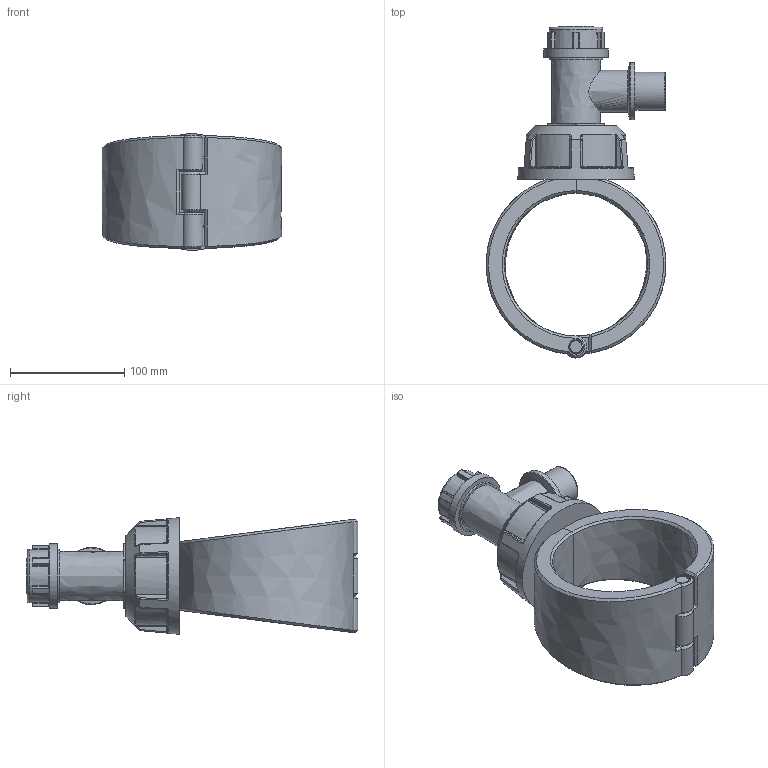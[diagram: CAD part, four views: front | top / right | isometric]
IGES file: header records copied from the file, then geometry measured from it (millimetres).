
Global section: file name: 1631R0125010; native system: Autodesk Inventor 2019; preprocessor: unknown; author: comp2; date: 20220203.120641; units: millimetre
Bounding box: 156.99 x 290 x 101.99 mm (x, y, z)
Volume: 1031903.9 mm3; surface area: 147698.1 mm2
Topology: 4 solids, 4 shells, 341 faces, 833 edges, 509 vertices
Faces by surface type: bspline 341
